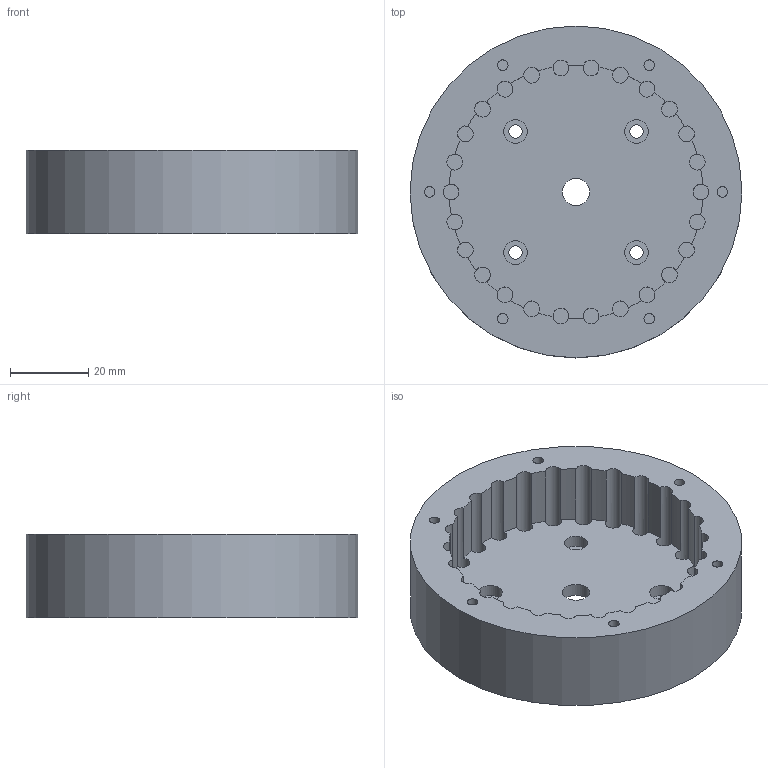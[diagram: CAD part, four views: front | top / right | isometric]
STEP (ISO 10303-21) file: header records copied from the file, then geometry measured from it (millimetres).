
FILE_DESCRIPTION(/* description */ (''),/* implementation_level */ '2;1');
FILE_NAME(/* name */ 'HW-Cycloid25_Housing_Base.step',/* time_stamp */ '2026-10-21T02:01:43-07:00',/* author */ (''),/* organization */ (''),/* preprocessor_version */ 'ST-DEVELOPER v20.2',/* originating_system */ 'Autodesk Translation Framework v15.15.0.0',/* authorisation */ '');
FILE_SCHEMA (('AUTOMOTIVE_DESIGN { 1 0 10303 214 3 1 1 }'));
Length unit declared in the file: millimetre
Products named in the file (1): 2026-10-21-02-01-42-936
Bounding box: 84.99 x 84.99 x 21.27 mm (x, y, z)
Volume: 63355.7 mm3; surface area: 23114.2 mm2
Topology: 1 solids, 1 shells, 109 faces, 285 edges, 190 vertices
Faces by surface type: cylinder 69, plane 40
Full cylindrical faces by diameter (mm): 2.7 x6, 3.5 x4, 4.04 x26, 6.1 x4, 7 x1, 23 x1, 84.99 x1
Entity records: 3522 total; most frequent: DIRECTION 695, CARTESIAN_POINT 585, ORIENTED_EDGE 570, AXIS2_PLACEMENT_3D 300, EDGE_CURVE 285, CIRCLE 190, VERTEX_POINT 190, EDGE_LOOP 131
